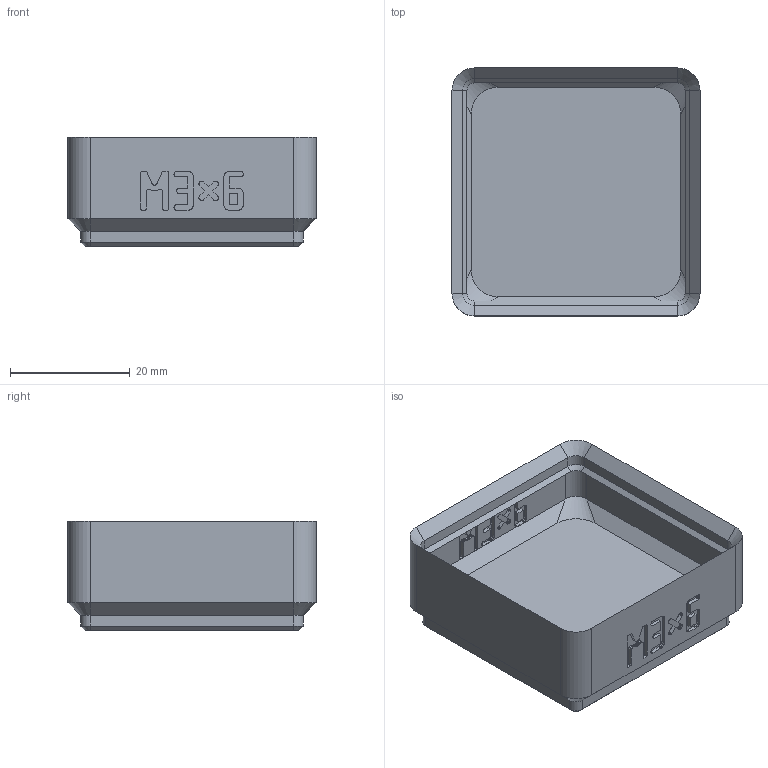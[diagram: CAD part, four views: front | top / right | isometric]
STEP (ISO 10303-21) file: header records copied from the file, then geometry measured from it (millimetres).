
FILE_DESCRIPTION(('Open CASCADE Model'),'2;1');
FILE_NAME('bin_m3x6','2026-11-16T17:21:54',('Author'),('Open CASCADE'), 'Open CASCADE STEP processor 8.0','build123d','Unknown');
FILE_SCHEMA(('AUTOMOTIVE_DESIGN { 1 0 10303 214 1 1 1 1 }'));
Products named in the file (1): bin_m3x6
Bounding box: 41.5 x 41.5 x 18.4 mm (x, y, z)
Volume: 10977.3 mm3; surface area: 8334.6 mm2
Topology: 1 solids, 1 shells, 961 faces, 2764 edges, 1824 vertices
Faces by surface type: plane 913, cylinder 24, cone 16, bspline 8
Full cylindrical faces by diameter (mm): 3.2 x4, 6.5 x4
Entity records: 64916 total; most frequent: CARTESIAN_POINT 13066, DIRECTION 8372, LINE 6316, VECTOR 6316, ORIENTED_EDGE 5528, PCURVE 5528, DEFINITIONAL_REPRESENTATION 5528, EDGE_CURVE 2764
